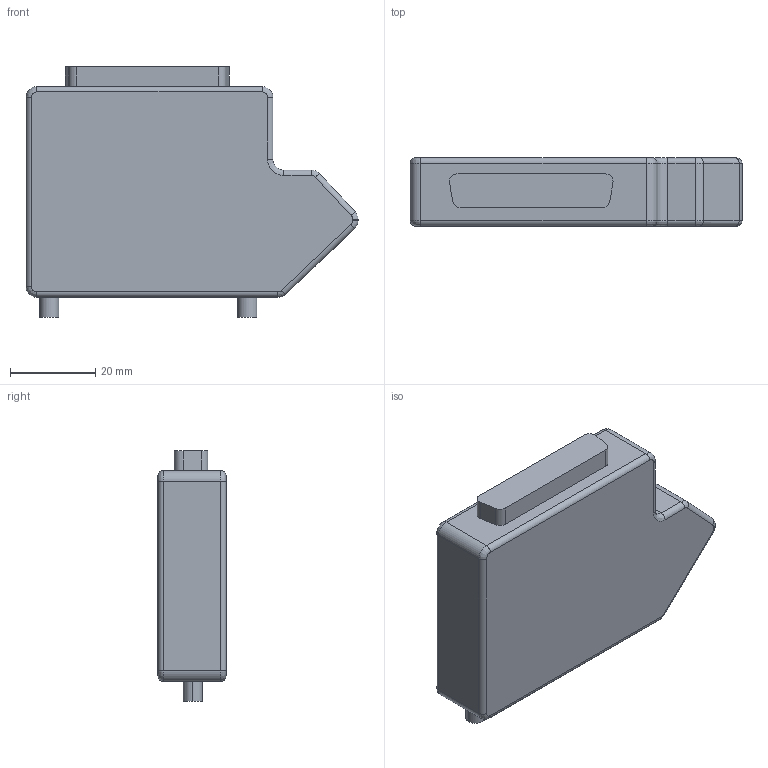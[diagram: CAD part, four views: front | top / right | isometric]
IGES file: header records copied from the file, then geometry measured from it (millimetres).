
Start section:  PTC IGES file: conn_crio_db_25_tb.igs
Global section: file name: conn_crio_db_25_tb.igs; native system: Pro/ENGINEER by Parametric Technology Corporation; preprocessor: 2006080; author: chrisj; organization: Unknown; date: 070125.114740; units: inch
Bounding box: 77.95 x 16 x 58.89 mm (x, y, z)
Surface area: 10961.8 mm2 (no closed solid volume)
Topology: 0 solids, 0 shells, 72 faces, 330 edges, 330 vertices
Faces by surface type: revolution 54, bspline 18
